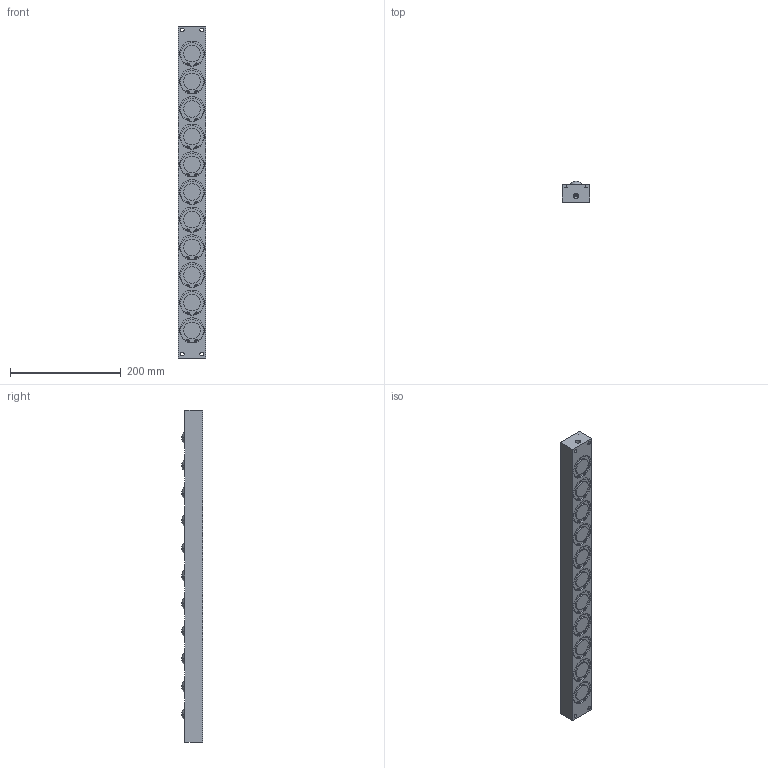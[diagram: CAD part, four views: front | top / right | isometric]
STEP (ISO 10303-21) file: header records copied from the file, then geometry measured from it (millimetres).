
FILE_DESCRIPTION (( 'STEP AP203' ), '1' );
FILE_NAME ('PVL55SL-11.STEP', '2016-01-06T00:38:40', ( '' ), ( '' ), 'SwSTEP 2.0', 'SolidWorks 2013', '' );
FILE_SCHEMA (( 'CONFIG_CONTROL_DESIGN' ));
Length unit declared in the file: millimetre
Products named in the file (1): PVL55SL-11
Bounding box: 49 x 38 x 600 mm (x, y, z)
Volume: 925551.6 mm3; surface area: 132238.1 mm2
Topology: 1 solids, 1 shells, 462 faces, 1143 edges, 764 vertices
Faces by surface type: cylinder 304, plane 132, sphere 22, cone 4
Entity records: 14200 total; most frequent: DIRECTION 2789, CARTESIAN_POINT 2368, ORIENTED_EDGE 2282, AXIS2_PLACEMENT_3D 1185, EDGE_CURVE 1141, VERTEX_POINT 764, CIRCLE 722, EDGE_LOOP 553
